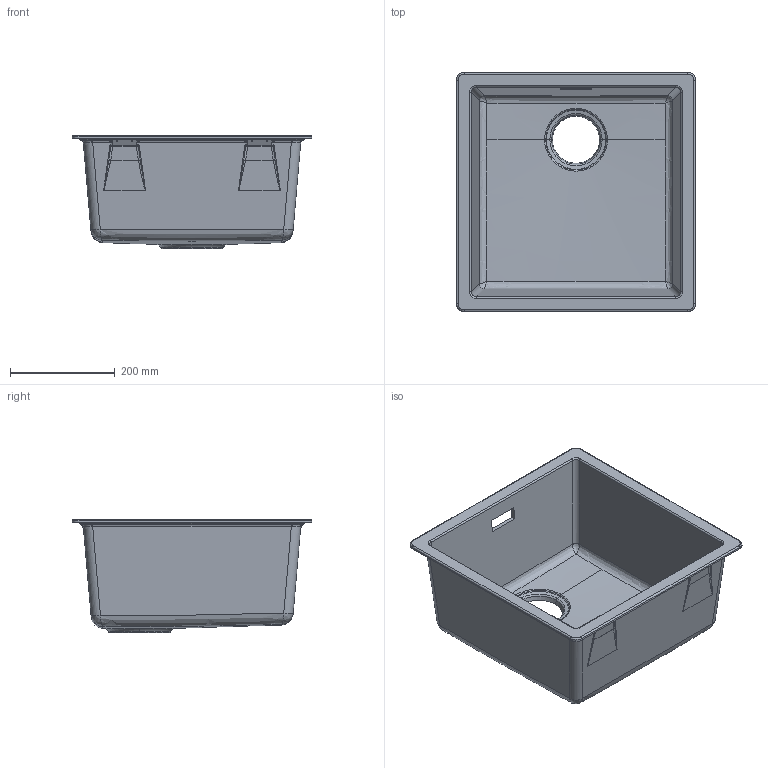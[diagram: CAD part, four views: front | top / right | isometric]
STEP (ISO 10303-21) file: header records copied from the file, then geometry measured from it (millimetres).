
FILE_DESCRIPTION (( 'STEP AP203' ), '1' );
FILE_NAME ('Zen102.STEP', '2018-10-11T10:41:40', ( '' ), ( '' ), 'SwSTEP 2.0', 'SolidWorks 2013', '' );
FILE_SCHEMA (( 'CONFIG_CONTROL_DESIGN' ));
Length unit declared in the file: millimetre
Products named in the file (1): Zen102
Bounding box: 456 x 456 x 215.43 mm (x, y, z)
Volume: 3682287.7 mm3; surface area: 939702.9 mm2
Topology: 1 solids, 1 shells, 401 faces, 952 edges, 538 vertices
Faces by surface type: bspline 196, cylinder 88, plane 35, torus 32, cone 26, sphere 24
Entity records: 18857 total; most frequent: CARTESIAN_POINT 11084, ORIENTED_EDGE 1856, DIRECTION 1294, EDGE_CURVE 928, AXIS2_PLACEMENT_3D 556, VERTEX_POINT 538, EDGE_LOOP 414, ADVANCED_FACE 401
